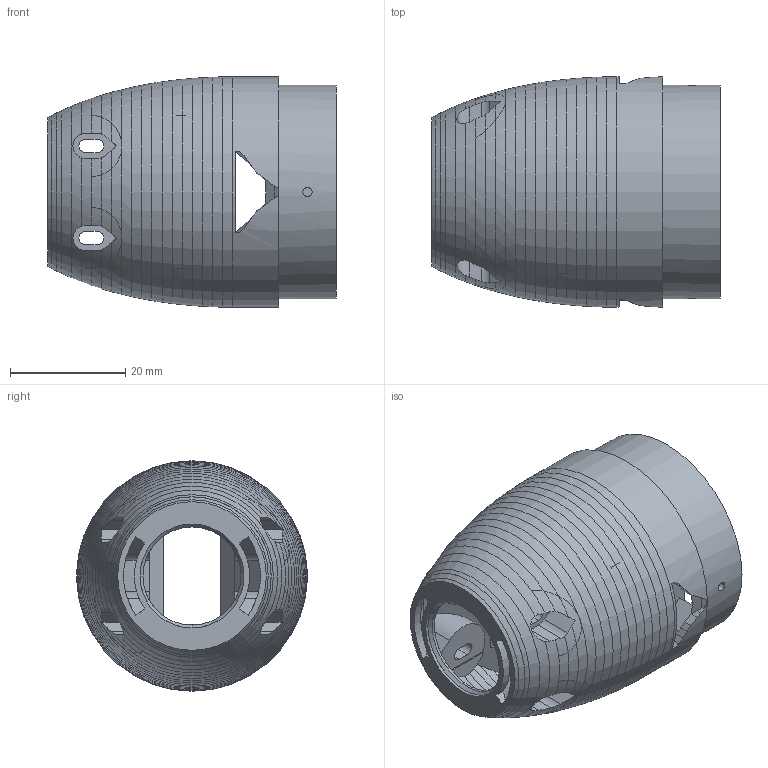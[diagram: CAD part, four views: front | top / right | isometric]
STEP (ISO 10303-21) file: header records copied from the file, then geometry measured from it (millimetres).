
FILE_DESCRIPTION(('Open CASCADE Model'),'2;1');
FILE_NAME('Open CASCADE Shape Model','2026-10-04T21:26:25',('Author'),( 'Open CASCADE'),'Open CASCADE STEP processor 7.9','Open CASCADE 7.9' ,'Unknown');
FILE_SCHEMA(('AUTOMOTIVE_DESIGN { 1 0 10303 214 1 1 1 1 }'));
Length unit declared in the file: millimetre
Products named in the file (1): Open CASCADE STEP translator 7.9 5
Bounding box: 50.1 x 40 x 40 mm (x, y, z)
Volume: 25087.5 mm3; surface area: 15639.1 mm2
Topology: 1 solids, 1 shells, 363 faces, 1050 edges, 681 vertices
Faces by surface type: plane 195, cone 93, cylinder 49, bspline 26
Full cylindrical faces by diameter (mm): 1.6 x2, 17.04 x1, 18.046 x1, 33.8 x1, 37 x1, 40 x1
Entity records: 29969 total; most frequent: CARTESIAN_POINT 10838, DIRECTION 3076, ORIENTED_EDGE 2106, PCURVE 2100, DEFINITIONAL_REPRESENTATION 2100, LINE 1453, VECTOR 1453, B_SPLINE_CURVE_WITH_KNOTS 1056
